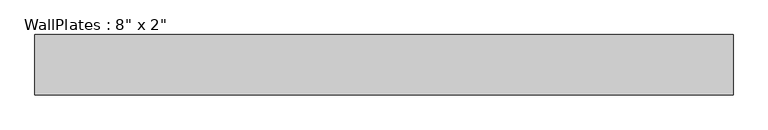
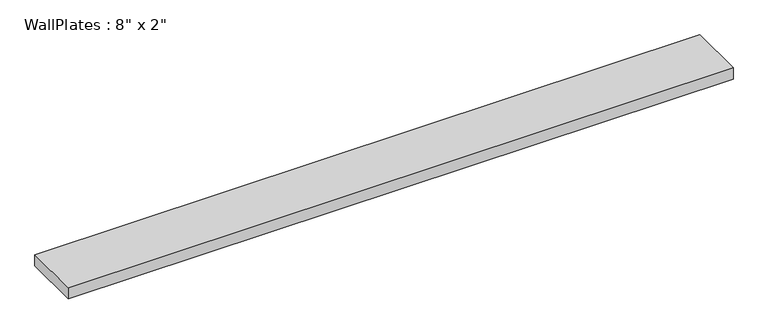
"""IFC4 building model written with IfcOpenShell, lengths in millimetres: beam geometry."""

import ifcopenshell
import ifcopenshell.guid

model = None  # the IFC model being written
_history = None  # IfcOwnerHistory: only IFC2X3 demands one
_inside = {}  # id of a spatial element -> (the spatial element, [elements in it])
_under = {}  # id of a project, library or spatial element -> (it, [spatial elements below it])
_declared = {}  # id of a project -> (the project, [libraries it declares])
_typed = {}  # id of a type object -> (the type object, [elements of that type])
_made_of = {}  # id of a material, layer set ... -> (it, [elements and type objects made of it])


def new_model(schema):
    """Start an empty IFC model of exactly this schema.

    Asked for "IFC4X3", IfcOpenShell would pick the latest addendum, in which some entities
    have other attributes; the version numbers below select the first issue.
    IFC2X3 requires an IfcOwnerHistory on every rooted entity: one is made here for all.
    """
    global model, _history
    if schema == "IFC4X3":
        model = ifcopenshell.file(schema_version=(4, 3, 0, 0))
    else:
        model = ifcopenshell.file(schema=schema)
    _inside.clear()
    _under.clear()
    _declared.clear()
    _typed.clear()
    _made_of.clear()
    _history = None
    if model.schema == "IFC2X3":
        org = make("IfcOrganization", Name="unknown")
        user = make(
            "IfcPersonAndOrganization",
            ThePerson=make("IfcPerson", FamilyName="unknown"),
            TheOrganization=org,
        )
        app = make(
            "IfcApplication",
            ApplicationDeveloper=org,
            Version="unknown",
            ApplicationFullName="unknown",
            ApplicationIdentifier="unknown",
        )
        _history = make(
            "IfcOwnerHistory",
            OwningUser=user,
            OwningApplication=app,
            ChangeAction="ADDED",
            CreationDate=0,
        )
    return model


def make(cls, **values):
    """One entity of the class cls with the attributes given. An attribute that is None is left unset."""
    return model.create_entity(
        cls, **{name: value for name, value in values.items() if value is not None}
    )


def rooted(cls, **values):
    """An entity with a GlobalId (a new one), such as an element, a storey or a relation."""
    return make(cls, GlobalId=ifcopenshell.guid.new(), OwnerHistory=_history, **values)


def si_unit(unit_type, name, prefix=None):
    """IfcSIUnit, for example si_unit("LENGTHUNIT", "METRE", prefix="MILLI")."""
    return make("IfcSIUnit", UnitType=unit_type, Prefix=prefix, Name=name)


def assignment(units):
    """IfcUnitAssignment: the units of a project."""
    return None if units is None else make("IfcUnitAssignment", Units=units)


def point(xyz):
    """IfcCartesianPoint."""
    return None if xyz is None else make("IfcCartesianPoint", Coordinates=xyz)


def direction(xyz):
    """IfcDirection."""
    return None if xyz is None else make("IfcDirection", DirectionRatios=xyz)


def frame(location, z_axis=None, x_axis=None):
    """IfcAxis2Placement3D, a coordinate frame: its origin and axes. An axis left out is left unset."""
    return make(
        "IfcAxis2Placement3D",
        Location=point(location),
        Axis=direction(z_axis),
        RefDirection=direction(x_axis),
    )


def origin():
    """The frame at (0, 0, 0) with its axes left unset."""
    return frame((0.0, 0.0, 0.0))


def place(relative_to, where):
    """IfcLocalPlacement: puts the frame where relative to a parent placement (None: the world)."""
    return make(
        "IfcLocalPlacement", PlacementRelTo=relative_to, RelativePlacement=where
    )


def context(
    kind, dimensions, precision=None, world=None, true_north=None, identifier=None
):
    """IfcGeometricRepresentationContext, for example the 3D "Model" context."""
    return make(
        "IfcGeometricRepresentationContext",
        ContextIdentifier=identifier,
        ContextType=kind,
        CoordinateSpaceDimension=dimensions,
        Precision=precision,
        WorldCoordinateSystem=world,
        TrueNorth=true_north,
    )


def project(units=None, contexts=None):
    """IfcProject with its units and contexts."""
    return rooted(
        "IfcProject",
        Name="project",
        RepresentationContexts=contexts,
        UnitsInContext=assignment(units),
    )


def spatial(cls, under=None, at=None, **own):
    """A site, building, storey or space (cls), placed at a placement, below another one or the project."""
    s = rooted(cls, ObjectPlacement=at, **own)
    if under is not None:
        _under.setdefault(under.id(), (under, []))[1].append(s)
    return s


def polyline(points):
    """IfcPolyline through the points."""
    return make("IfcPolyline", Points=[point(p) for p in points])


def outline(outer, holes=None, kind="AREA"):
    """IfcArbitraryClosedProfileDef: a profile drawn as a closed curve; with holes, ...WithVoids."""
    if holes is None:
        return make("IfcArbitraryClosedProfileDef", ProfileType=kind, OuterCurve=outer)
    return make(
        "IfcArbitraryProfileDefWithVoids",
        ProfileType=kind,
        OuterCurve=outer,
        InnerCurves=holes,
    )


def extrude(swept, where, along, depth):
    """IfcExtrudedAreaSolid: the profile swept, set in the frame where, extruded along a direction by depth."""
    return make(
        "IfcExtrudedAreaSolid",
        SweptArea=swept,
        Position=where,
        ExtrudedDirection=direction(along),
        Depth=depth,
    )


def shape(context_of_items, identifier, shape_type, items):
    """IfcShapeRepresentation: the items that make up one representation, for example the "Body"."""
    return make(
        "IfcShapeRepresentation",
        ContextOfItems=context_of_items,
        RepresentationIdentifier=identifier,
        RepresentationType=shape_type,
        Items=items,
    )


def source(mapping_origin, context_of_items, identifier, shape_type, items):
    """IfcRepresentationMap: a shape defined once, which mapped items show again and again."""
    return make(
        "IfcRepresentationMap",
        MappingOrigin=mapping_origin,
        MappedRepresentation=shape(context_of_items, identifier, shape_type, items),
    )


def transform(
    local_origin,
    x_axis=None,
    y_axis=None,
    z_axis=None,
    scale=None,
    scale2=None,
    scale3=None,
    uniform=True,
):
    """IfcCartesianTransformationOperator3D, or its non-uniform kind. x_axis, y_axis, z_axis: its Axis1, 2, 3."""
    if uniform:
        return make(
            "IfcCartesianTransformationOperator3D",
            Axis1=direction(x_axis),
            Axis2=direction(y_axis),
            LocalOrigin=point(local_origin),
            Scale=scale,
            Axis3=direction(z_axis),
        )
    return make(
        "IfcCartesianTransformationOperator3DnonUniform",
        Axis1=direction(x_axis),
        Axis2=direction(y_axis),
        LocalOrigin=point(local_origin),
        Scale=scale,
        Axis3=direction(z_axis),
        Scale2=scale2,
        Scale3=scale3,
    )


def mapped(mapping_source, mapping_target):
    """IfcMappedItem: shows the shape of a source again, moved by a transform."""
    return make(
        "IfcMappedItem", MappingSource=mapping_source, MappingTarget=mapping_target
    )


def made_of(thing, what):
    """Note that an element or type object is made of a material, layer set ...; save() writes the relation."""
    if what is not None:
        _made_of.setdefault(what.id(), (what, []))[1].append(thing)
    return thing


def element(
    cls,
    number,
    at=None,
    inside=None,
    cuts=None,
    type_object=None,
    material=None,
    context=None,
    identifier="Body",
    shape_type=None,
    held_by="IfcProductDefinitionShape",
    body=None,
    shapes=None,
    **own,
):
    """One element of the class cls, such as IfcWall. Its Tag is "e" and its number.

    at: its placement. inside: the storey or other place that contains it. cuts: it is an
    opening in that element (IfcRelVoidsElement). A single representation is given by context,
    identifier, shape_type and body (its items); several are given by shapes. held_by: the class
    of the entity that holds the representations. save() writes the other relations.
    """
    e = rooted(cls, Tag="e%d" % number, ObjectPlacement=at, **own)
    if body is not None:
        shapes = [shape(context, identifier, shape_type, body)]
    if shapes is not None:
        e.Representation = make(held_by, Representations=shapes)
    if inside is not None:
        _inside.setdefault(inside.id(), (inside, []))[1].append(e)
    if cuts is not None:
        rooted(
            "IfcRelVoidsElement", RelatingBuildingElement=cuts, RelatedOpeningElement=e
        )
    if type_object is not None:
        _typed.setdefault(type_object.id(), (type_object, []))[1].append(e)
    return made_of(e, material)


def aggregate(whole, parts):
    """IfcRelAggregates: a whole, such as a stair, and the parts it consists of."""
    return rooted("IfcRelAggregates", RelatingObject=whole, RelatedObjects=parts)


def save(model, path):
    """Write the relations noted so far, then the file.

    IfcRelAggregates (storeys below a building ...), IfcRelContainedInSpatialStructure (elements
    in a storey), IfcRelDefinesByType, IfcRelAssociatesMaterial and IfcRelDeclares: one each for
    every whole, place, type object, material and project.
    """
    for whole, parts in _under.values():
        aggregate(whole, parts)
    for where, things in _inside.values():
        rooted(
            "IfcRelContainedInSpatialStructure",
            RelatedElements=things,
            RelatingStructure=where,
        )
    for kind, things in _typed.values():
        rooted("IfcRelDefinesByType", RelatedObjects=things, RelatingType=kind)
    for what, things in _made_of.values():
        rooted("IfcRelAssociatesMaterial", RelatedObjects=things, RelatingMaterial=what)
    for by, libraries in _declared.values():
        rooted("IfcRelDeclares", RelatingContext=by, RelatedDefinitions=libraries)
    model.write(path)


def beam_ea55bc13(model_context):
    return source(origin(), model_context, "Body", "SweptSolid", [
        extrude(outline(polyline([(-1067.9539857, -92.075), (-1067.9539857, 92.075), (1067.9539857, 92.075), (1067.9539857, -92.075), (-1067.9539857, -92.075)])), frame((0.0, 0.0, -19.05), z_axis=(0.0, 0.0, 1.0), x_axis=(1.0, 0.0, 0.0)), (0.0, 0.0, 1.0), 38.1),
    ])


if __name__ == "__main__":
    model = new_model("IFC4")
    model_context = context("Model", 3, world=origin())
    ifc_project = project(units=[si_unit("LENGTHUNIT", "METRE", prefix="MILLI")], contexts=[model_context])
    site = spatial("IfcSite", under=ifc_project)
    building = spatial("IfcBuilding", under=site)
    placement = place(None, origin())
    beam_shape = beam_ea55bc13(model_context)
    element("IfcBeam", 1, ObjectType="WallPlates : 8\" x 2\"", at=placement, inside=building, context=model_context, shape_type="MappedRepresentation", body=[
        mapped(beam_shape, transform((0.0, 0.0, 0.0), x_axis=(1.0, 0.0, 0.0), y_axis=(0.0, 1.0, 0.0), z_axis=(0.0, 0.0, 1.0))),
    ])
    save(model, "model.ifc")
